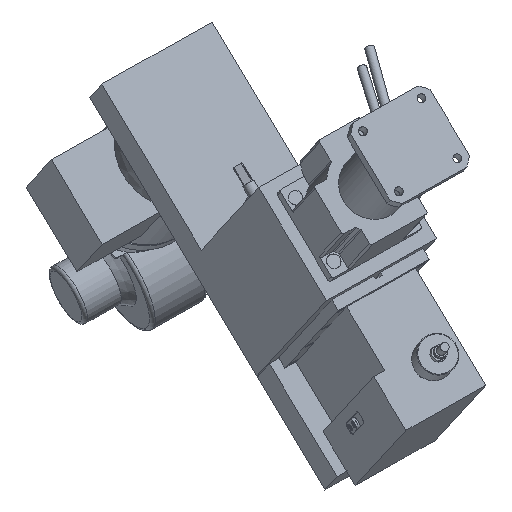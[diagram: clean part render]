
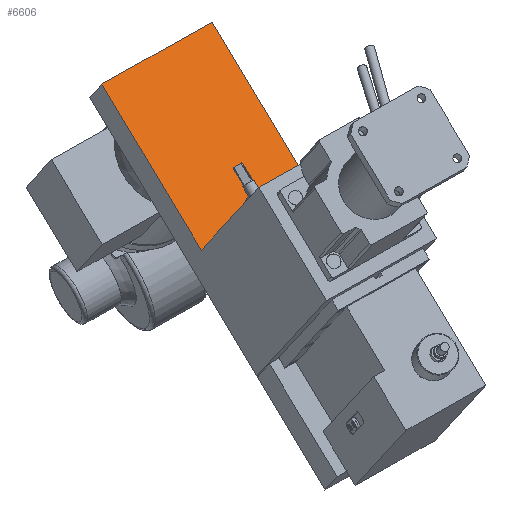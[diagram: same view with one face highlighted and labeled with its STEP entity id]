
A CAD part, top view. The second image highlights one B-rep face of the part: STEP entity #6606.
In plain terms, the highlighted planar face has unit normal (0.205, 0.22, 0.954).
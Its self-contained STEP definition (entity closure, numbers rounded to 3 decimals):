
#6354=CARTESIAN_POINT('',(-0.376,-334.216,-537.249));
#6355=VERTEX_POINT('',#6354);
#6362=CARTESIAN_POINT('',(-120.658,-133.387,-557.86));
#6363=VERTEX_POINT('',#6362);
#6364=CARTESIAN_POINT('',(-0.376,-334.216,-537.249));
#6365=DIRECTION('',(-0.512,0.855,-0.088));
#6366=VECTOR('',#6365,235.);
#6367=LINE('',#6364,#6366);
#6368=EDGE_CURVE('',#6355,#6363,#6367,.T.);
#6430=CARTESIAN_POINT('',(12.839,-58.156,-603.891));
#6431=VERTEX_POINT('',#6430);
#6438=CARTESIAN_POINT('',(133.122,-258.985,-583.28));
#6439=VERTEX_POINT('',#6438);
#6440=CARTESIAN_POINT('',(12.839,-58.156,-603.891));
#6441=DIRECTION('',(0.512,-0.855,0.088));
#6442=VECTOR('',#6441,235.);
#6443=LINE('',#6440,#6442);
#6444=EDGE_CURVE('',#6431,#6439,#6443,.T.);
#6585=CARTESIAN_POINT('',(47.179,-264.554,-563.554));
#6586=DIRECTION('',(0.205,0.22,0.954));
#6587=DIRECTION('',(-0.834,-0.47,0.288));
#6588=AXIS2_PLACEMENT_3D('',#6585,#6586,#6587);
#6589=PLANE('',#6588);
#6590=CARTESIAN_POINT('',(133.122,-258.985,-583.28));
#6591=DIRECTION('',(-0.834,-0.47,0.288));
#6592=VECTOR('',#6591,160.);
#6593=LINE('',#6590,#6592);
#6594=EDGE_CURVE('',#6439,#6355,#6593,.T.);
#6595=ORIENTED_EDGE('',*,*,#6594,.F.);
#6596=ORIENTED_EDGE('',*,*,#6444,.F.);
#6597=CARTESIAN_POINT('',(-120.658,-133.387,-557.86));
#6598=DIRECTION('',(0.834,0.47,-0.288));
#6599=VECTOR('',#6598,160.);
#6600=LINE('',#6597,#6599);
#6601=EDGE_CURVE('',#6363,#6431,#6600,.T.);
#6602=ORIENTED_EDGE('',*,*,#6601,.F.);
#6603=ORIENTED_EDGE('',*,*,#6368,.F.);
#6604=EDGE_LOOP('',(#6595,#6596,#6602,#6603));
#6605=FACE_OUTER_BOUND('',#6604,.T.);
#6606=ADVANCED_FACE('',(#6605),#6589,.T.);
